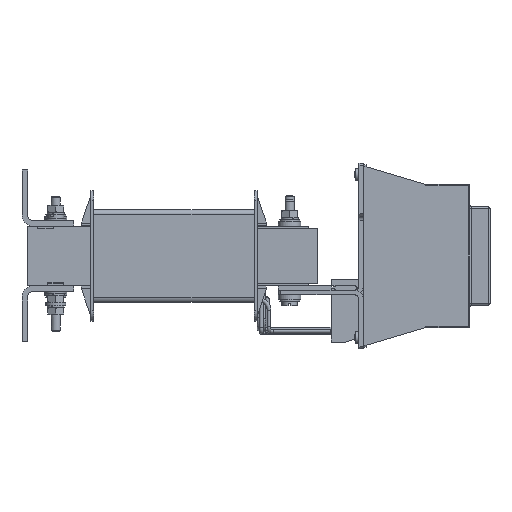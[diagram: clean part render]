
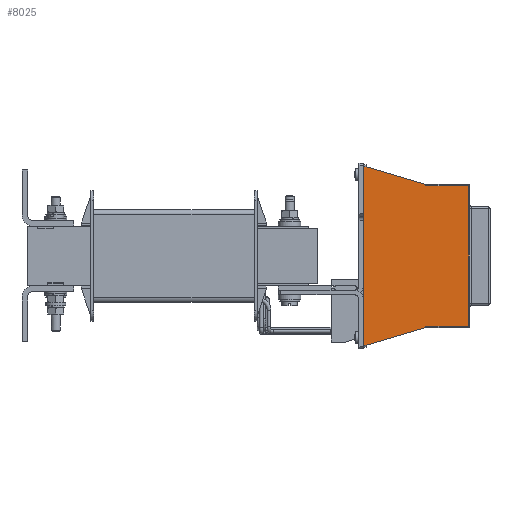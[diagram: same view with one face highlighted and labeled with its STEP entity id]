
A CAD part, left-side view. The second image highlights one B-rep face of the part: STEP entity #8025.
In plain terms, the highlighted planar face has unit normal (-1, 0, 0).
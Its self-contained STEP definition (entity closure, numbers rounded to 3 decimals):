
#7504=CARTESIAN_POINT('',(-18.297,-107.424,-27.449));
#7505=VERTEX_POINT('',#7504);
#7506=CARTESIAN_POINT('',(-18.297,-133.944,-19.55));
#7507=VERTEX_POINT('',#7506);
#7508=CARTESIAN_POINT('',(-18.297,-107.424,-27.449));
#7509=DIRECTION('',(0.,-0.958,0.285));
#7510=VECTOR('',#7509,27.671);
#7511=LINE('',#7508,#7510);
#7512=EDGE_CURVE('',#7505,#7507,#7511,.T.);
#7692=CARTESIAN_POINT('',(-18.297,-133.944,44.05));
#7693=VERTEX_POINT('',#7692);
#7694=CARTESIAN_POINT('',(-18.297,-107.424,51.949));
#7695=VERTEX_POINT('',#7694);
#7696=CARTESIAN_POINT('',(-18.297,-133.944,44.05));
#7697=DIRECTION('',(0.,0.958,0.285));
#7698=VECTOR('',#7697,27.671);
#7699=LINE('',#7696,#7698);
#7700=EDGE_CURVE('',#7693,#7695,#7699,.T.);
#7940=CARTESIAN_POINT('',(-18.297,-106.224,-19.55));
#7941=DIRECTION('',(-1.0,0.0,0.0));
#7942=DIRECTION('',(0.0,0.0,1.0));
#7943=AXIS2_PLACEMENT_3D('',#7940,#7941,#7942);
#7944=PLANE('',#7943);
#7945=ORIENTED_EDGE('',*,*,#7512,.T.);
#7946=CARTESIAN_POINT('',(-18.297,-133.944,-18.95));
#7947=VERTEX_POINT('',#7946);
#7948=CARTESIAN_POINT('',(-18.297,-133.944,-18.95));
#7949=DIRECTION('',(0.0,0.0,-1.0));
#7950=VECTOR('',#7949,0.6);
#7951=LINE('',#7948,#7950);
#7952=EDGE_CURVE('',#7947,#7507,#7951,.T.);
#7953=ORIENTED_EDGE('',*,*,#7952,.F.);
#7954=CARTESIAN_POINT('',(-18.297,-153.024,-18.95));
#7955=VERTEX_POINT('',#7954);
#7956=CARTESIAN_POINT('',(-18.297,-153.024,-18.95));
#7957=DIRECTION('',(0.0,1.0,0.0));
#7958=VECTOR('',#7957,19.08);
#7959=LINE('',#7956,#7958);
#7960=EDGE_CURVE('',#7955,#7947,#7959,.T.);
#7961=ORIENTED_EDGE('',*,*,#7960,.F.);
#7962=CARTESIAN_POINT('',(-18.297,-153.024,43.45));
#7963=VERTEX_POINT('',#7962);
#7964=CARTESIAN_POINT('',(-18.297,-153.024,43.45));
#7965=DIRECTION('',(0.0,0.0,-1.0));
#7966=VECTOR('',#7965,62.4);
#7967=LINE('',#7964,#7966);
#7968=EDGE_CURVE('',#7963,#7955,#7967,.T.);
#7969=ORIENTED_EDGE('',*,*,#7968,.F.);
#7970=CARTESIAN_POINT('',(-18.297,-133.944,43.45));
#7971=VERTEX_POINT('',#7970);
#7972=CARTESIAN_POINT('',(-18.297,-133.944,43.45));
#7973=DIRECTION('',(0.0,-1.0,0.0));
#7974=VECTOR('',#7973,19.08);
#7975=LINE('',#7972,#7974);
#7976=EDGE_CURVE('',#7971,#7963,#7975,.T.);
#7977=ORIENTED_EDGE('',*,*,#7976,.F.);
#7978=CARTESIAN_POINT('',(-18.297,-133.944,44.05));
#7979=DIRECTION('',(0.0,0.0,-1.0));
#7980=VECTOR('',#7979,0.6);
#7981=LINE('',#7978,#7980);
#7982=EDGE_CURVE('',#7693,#7971,#7981,.T.);
#7983=ORIENTED_EDGE('',*,*,#7982,.F.);
#7984=ORIENTED_EDGE('',*,*,#7700,.T.);
#7985=CARTESIAN_POINT('',(-18.297,-106.224,51.949));
#7986=VERTEX_POINT('',#7985);
#7987=CARTESIAN_POINT('',(-18.297,-106.224,51.949));
#7988=DIRECTION('',(0.0,-1.0,0.0));
#7989=VECTOR('',#7988,1.2);
#7990=LINE('',#7987,#7989);
#7991=EDGE_CURVE('',#7986,#7695,#7990,.T.);
#7992=ORIENTED_EDGE('',*,*,#7991,.F.);
#7993=CARTESIAN_POINT('',(-18.297,-106.224,30.8));
#7994=VERTEX_POINT('',#7993);
#7995=CARTESIAN_POINT('',(-18.297,-106.224,30.8));
#7996=DIRECTION('',(0.0,0.0,1.0));
#7997=VECTOR('',#7996,21.149);
#7998=LINE('',#7995,#7997);
#7999=EDGE_CURVE('',#7994,#7986,#7998,.T.);
#8000=ORIENTED_EDGE('',*,*,#7999,.F.);
#8001=CARTESIAN_POINT('',(-18.297,-106.224,-7.));
#8002=VERTEX_POINT('',#8001);
#8003=CARTESIAN_POINT('',(-18.297,-106.224,-7.));
#8004=DIRECTION('',(0.0,0.0,1.0));
#8005=VECTOR('',#8004,37.8);
#8006=LINE('',#8003,#8005);
#8007=EDGE_CURVE('',#8002,#7994,#8006,.T.);
#8008=ORIENTED_EDGE('',*,*,#8007,.F.);
#8009=CARTESIAN_POINT('',(-18.297,-106.224,-27.449));
#8010=VERTEX_POINT('',#8009);
#8011=CARTESIAN_POINT('',(-18.297,-106.224,-27.449));
#8012=DIRECTION('',(0.0,0.0,1.0));
#8013=VECTOR('',#8012,20.449);
#8014=LINE('',#8011,#8013);
#8015=EDGE_CURVE('',#8010,#8002,#8014,.T.);
#8016=ORIENTED_EDGE('',*,*,#8015,.F.);
#8017=CARTESIAN_POINT('',(-18.297,-106.224,-27.449));
#8018=DIRECTION('',(0.0,-1.0,0.0));
#8019=VECTOR('',#8018,1.2);
#8020=LINE('',#8017,#8019);
#8021=EDGE_CURVE('',#8010,#7505,#8020,.T.);
#8022=ORIENTED_EDGE('',*,*,#8021,.T.);
#8023=EDGE_LOOP('',(#7945,#7953,#7961,#7969,#7977,#7983,#7984,#7992,#8000,#8008,#8016,#8022));
#8024=FACE_OUTER_BOUND('',#8023,.T.);
#8025=ADVANCED_FACE('',(#8024),#7944,.T.);
